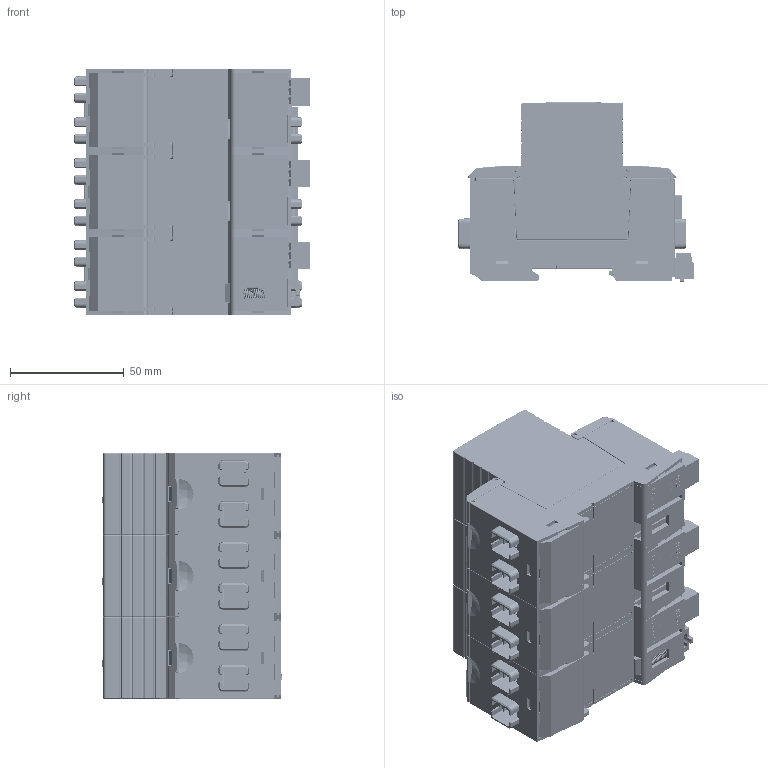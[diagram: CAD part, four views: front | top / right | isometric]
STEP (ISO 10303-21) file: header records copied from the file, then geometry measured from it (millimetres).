
FILE_DESCRIPTION(/* description */ ('Unknown'),/* implementation_level */ '2;1');
FILE_NAME(/* name */ 'SD25TSXXXL312PV',/* time_stamp */ '2023-04-10T12:10:08+08:00',/* author */ ('Unknown'),/* organization */ ('Unknown'),/* preprocessor_version */ 'ST-DEVELOPER v16.7',/* originating_system */ 'Solid Edge',/* authorisation */ 'Unknown');
FILE_SCHEMA (('AUTOMOTIVE_DESIGN {1 0 10303 214 3 1 1}'));
Products named in the file (32): ASM1000000833; ASM1000000062_oa_0; PRT1000000244; PRT1000000241; PRT1000000114; PRT1000001015; ASM1000000813_oa_1; PRT1000000236; ASM1000000062_oa_2; ASM1000000813_oa_3; ASM1000000062_oa_4; ASM1000000813_oa_5; ASM1000000065_oa_6; PRT1000000240; PRT1000000239; ASM1000000064_oa_7; PRT1000000238; ASM1000000020_oa_8; PRT1000000088; PRT1000000117; PRT1000001237; PRT1000004085; ASM1000000065_oa_9; ASM1000000064_oa_10; ASM1000000020_oa_11; ASM1000000065_oa_12; ASM1000000064_oa_13; ASM1000000020_oa_14; PRT1000000120; PRT1000001242; PRT1000000232; PRT1000000231
Assembly tree (67 placements, depth 4):
  ASM1000000833
    ASM1000000062_oa_0
      PRT1000000244
      PRT1000000241  x2
      PRT1000000114  x2
      PRT1000001015
      ASM1000000813_oa_1
        PRT1000000236
    ASM1000000062_oa_2
      PRT1000000244
      PRT1000000241  x2
      PRT1000000114  x2
      PRT1000001015
      ASM1000000813_oa_3
        PRT1000000236
    ASM1000000062_oa_4
      PRT1000000244
      PRT1000000241  x2
      PRT1000000114  x2
      PRT1000001015
      ASM1000000813_oa_5
        PRT1000000236
    ASM1000000065_oa_6
      PRT1000000240
      PRT1000000239
      ASM1000000064_oa_7
        PRT1000000238
      ASM1000000020_oa_8
        PRT1000000088
      PRT1000000117
      PRT1000001237  x3
      PRT1000004085
    ASM1000000065_oa_9
      PRT1000000240
      PRT1000000239
      ASM1000000064_oa_10
        PRT1000000238
      ASM1000000020_oa_11
        PRT1000000088
      PRT1000000117
      PRT1000001237  x3
      PRT1000004085
    ASM1000000065_oa_12
      PRT1000000240
      PRT1000000239
      ASM1000000064_oa_13
        PRT1000000238
      ASM1000000020_oa_14
        PRT1000000088
      PRT1000000117
      PRT1000001237  x3
      PRT1000004085
    PRT1000000120
    PRT1000001242
    PRT1000000232
    PRT1000000231
Bounding box: 103.4 x 78.72 x 108 mm (x, y, z)
Volume: 197948.3 mm3; surface area: 320431.8 mm2
Topology: 52 solids, 52 shells, 12871 faces, 35268 edges, 22650 vertices
Faces by surface type: plane 9271, cylinder 2595, torus 378, sphere 280, bspline 221, cone 126
Full cylindrical faces by diameter (mm): 1.5 x12, 1.6 x15, 1.8 x21, 2 x24, 2.2 x9, 2.4 x6, 2.5 x24, 2.8 x9, 2.9 x9, 5 x9, 6.8 x9, 7.5 x12, 9.5 x9
Entity records: 137167 total; most frequent: CARTESIAN_POINT 30113, ORIENTED_EDGE 22698, DIRECTION 21216, EDGE_CURVE 11349, LINE 9142, VECTOR 9142, VERTEX_POINT 7338, AXIS2_PLACEMENT_3D 6037
